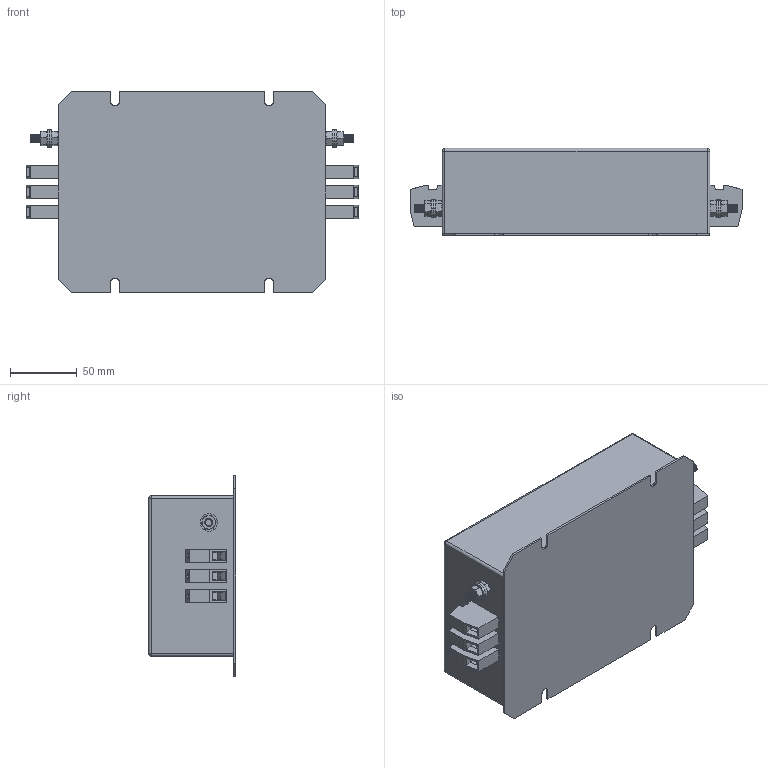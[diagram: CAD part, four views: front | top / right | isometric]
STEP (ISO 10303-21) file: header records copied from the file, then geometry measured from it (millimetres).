
FILE_DESCRIPTION (( 'STEP AP203' ), '1' );
FILE_NAME ('NF-50.STEP', '2021-06-29T13:14:09', ( '' ), ( '' ), 'SwSTEP 2.0', 'SolidWorks 2017', '' );
FILE_SCHEMA (( 'CONFIG_CONTROL_DESIGN' ));
Length unit declared in the file: millimetre
Products named in the file (7): NF-50; hex nut style 1_am_B18.2.4.1M - Hex nut, Style 1,  M6 x 1 --D-N; HDFK-10; parvex; flat washer narrow_am_B18.22M - Plain washer, 6 mm, narrow; M6x16 Earth post; hex screw_am_B18.6.7M - M6 x 1.0 x 16 Indented HHMS --16S
Assembly tree (13 placements, depth 3):
  NF-50
    parvex
    M6x16 Earth post  x2
      flat washer narrow_am_B18.22M - Plain washer, 6 mm, narrow
      hex nut style 1_am_B18.2.4.1M - Hex nut, Style 1,  M6 x 1 --D-N
      hex screw_am_B18.6.7M - M6 x 1.0 x 16 Indented HHMS --16S
    HDFK-10  x6
Bounding box: 248.01 x 65 x 150 mm (x, y, z)
Volume: 1564844.2 mm3; surface area: 198044.9 mm2
Topology: 22 solids, 22 shells, 664 faces, 1576 edges, 992 vertices
Faces by surface type: plane 336, cone 168, cylinder 156, sphere 4
Entity records: 8655 total; most frequent: CARTESIAN_POINT 1475, DIRECTION 1404, ORIENTED_EDGE 1256, EDGE_CURVE 628, AXIS2_PLACEMENT_3D 539, VERTEX_POINT 394, LINE 326, VECTOR 326
